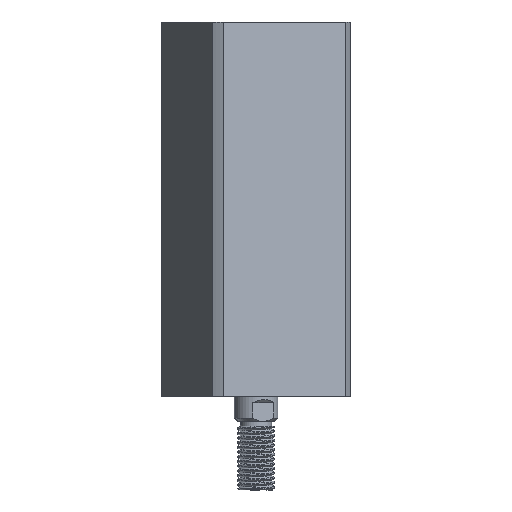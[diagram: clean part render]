
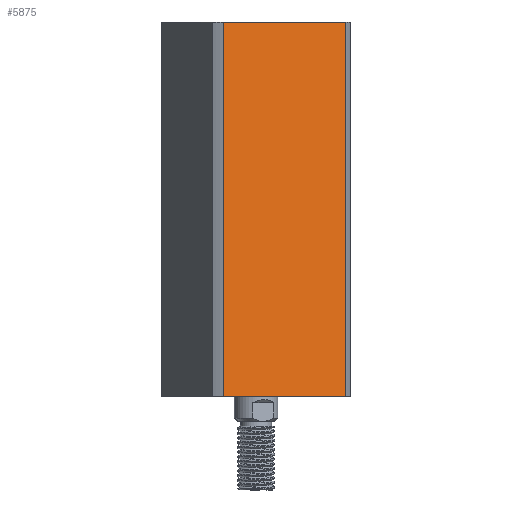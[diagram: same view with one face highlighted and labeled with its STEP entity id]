
A CAD part, left-side view. The second image highlights one B-rep face of the part: STEP entity #5875.
In plain terms, the highlighted planar face has unit normal (-0.924, -0.383, 0) as drawn and (1, 0, 0) by its records, which use the part's own axes.
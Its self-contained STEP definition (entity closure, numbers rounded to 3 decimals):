
#46 = DIRECTION ( 'NONE',  ( 0., 1., 0. ) ) ;
#400 = EDGE_CURVE ( 'NONE', #751, #3786, #5342, .T. ) ;
#457 = EDGE_CURVE ( 'NONE', #3786, #1704, #641, .T. ) ;
#599 = PLANE ( 'NONE',  #1758 ) ;
#641 = LINE ( 'NONE', #6058, #4837 ) ;
#716 = CARTESIAN_POINT ( 'NONE',  ( 24., 21.166, 0. ) ) ;
#751 = VERTEX_POINT ( 'NONE', #1261 ) ;
#1015 = CARTESIAN_POINT ( 'NONE',  ( 24., -21.166, 0. ) ) ;
#1261 = CARTESIAN_POINT ( 'NONE',  ( 24., -21.166, 120. ) ) ;
#1415 = EDGE_LOOP ( 'NONE', ( #8291, #5616, #6655, #7019 ) ) ;
#1704 = VERTEX_POINT ( 'NONE', #716 ) ;
#1758 = AXIS2_PLACEMENT_3D ( 'NONE', #7308, #8987, #4031 ) ;
#3169 = DIRECTION ( 'NONE',  ( 0., 0., 1. ) ) ;
#3786 = VERTEX_POINT ( 'NONE', #7544 ) ;
#3822 = VERTEX_POINT ( 'NONE', #1015 ) ;
#4031 = DIRECTION ( 'NONE',  ( 0., -1., 0. ) ) ;
#4383 = LINE ( 'NONE', #8138, #6583 ) ;
#4837 = VECTOR ( 'NONE', #9964, 1000. ) ;
#5236 = FACE_OUTER_BOUND ( 'NONE', #1415, .T. ) ;
#5342 = LINE ( 'NONE', #10792, #7296 ) ;
#5616 = ORIENTED_EDGE ( 'NONE', *, *, #8701, .T. ) ;
#5875 = ADVANCED_FACE ( 'NONE', ( #5236 ), #599, .F. ) ;
#5920 = LINE ( 'NONE', #10027, #8387 ) ;
#6058 = CARTESIAN_POINT ( 'NONE',  ( 24., 21.166, -480. ) ) ;
#6583 = VECTOR ( 'NONE', #3169, 1000. ) ;
#6655 = ORIENTED_EDGE ( 'NONE', *, *, #457, .F. ) ;
#7019 = ORIENTED_EDGE ( 'NONE', *, *, #400, .F. ) ;
#7296 = VECTOR ( 'NONE', #7887, 1000. ) ;
#7308 = CARTESIAN_POINT ( 'NONE',  ( 24., 24., 120. ) ) ;
#7544 = CARTESIAN_POINT ( 'NONE',  ( 24., 21.166, 120. ) ) ;
#7887 = DIRECTION ( 'NONE',  ( 0., 1., 0. ) ) ;
#8138 = CARTESIAN_POINT ( 'NONE',  ( 24., -21.166, -480. ) ) ;
#8291 = ORIENTED_EDGE ( 'NONE', *, *, #9051, .F. ) ;
#8387 = VECTOR ( 'NONE', #46, 1000. ) ;
#8701 = EDGE_CURVE ( 'NONE', #3822, #1704, #5920, .T. ) ;
#8987 = DIRECTION ( 'NONE',  ( -1., 0., 0. ) ) ;
#9051 = EDGE_CURVE ( 'NONE', #3822, #751, #4383, .T. ) ;
#9964 = DIRECTION ( 'NONE',  ( 0., 0., -1. ) ) ;
#10027 = CARTESIAN_POINT ( 'NONE',  ( 24., 24., 0. ) ) ;
#10792 = CARTESIAN_POINT ( 'NONE',  ( 24., 24., 120. ) ) ;
